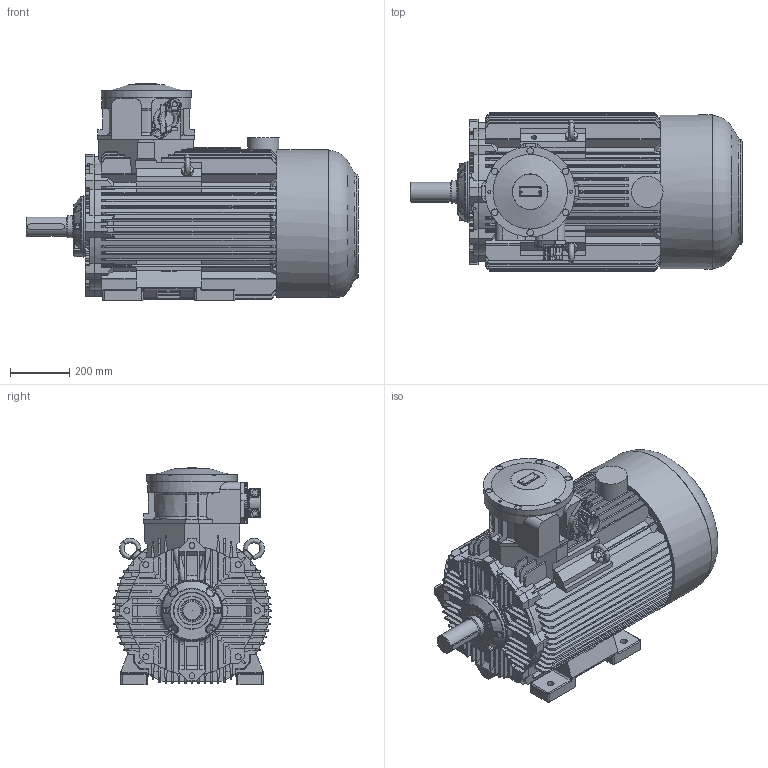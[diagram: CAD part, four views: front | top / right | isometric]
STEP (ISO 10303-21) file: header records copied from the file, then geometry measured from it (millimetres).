
FILE_DESCRIPTION(/* description */ ('Unknown'),/* implementation_level */ '2;1');
FILE_NAME(/* name */ 'cSTe250M4-8 IE2-3',/* time_stamp */ '2021-12-13T10:33:14+01:00',/* author */ ('Unknown'),/* organization */ ('Unknown'),/* preprocessor_version */ 'ST-DEVELOPER v16.7',/* originating_system */ 'DEX',/* authorisation */ $);
FILE_SCHEMA (('AUTOMOTIVE_DESIGN {1 0 10303 214 3 1 1}'));
Length unit declared in the file: millimetre
Products named in the file (1): cSTe250M4-8 IE2-3
Bounding box: 1120 x 534.95 x 733.89 mm (x, y, z)
Volume: 184390729.3 mm3; surface area: 5236512.5 mm2
Topology: 2 solids, 34 shells, 2150 faces, 5722 edges, 3588 vertices
Faces by surface type: plane 965, cylinder 661, torus 177, cone 160, bspline 138, sphere 49
Full cylindrical faces by diameter (mm): 3.2 x2, 6.647 x2, 8.16 x4, 8.376 x4, 8.5 x2, 8.917 x1, 10 x6, 10.106 x23, 11 x4, 14.63 x3, 16.4 x2, 17.294 x9, 18.376 x1, 20 x8, 22 x6, 24 x4, 37.69 x2, 38.053 x1, 39.3 x1, 52 x2, 65 x1, 71.5 x1, 72 x1, 106 x1, 124.4 x1, 124.996 x1, 202 x1, 207.997 x1, 246.004 x1, 300.004 x1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
Entity records: 86186 total; most frequent: CARTESIAN_POINT 20030, ORIENTED_EDGE 10760, DIRECTION 10411, EDGE_CURVE 5380, AXIS2_PLACEMENT_3D 3771, VERTEX_POINT 3490, LINE 2869, VECTOR 2869
